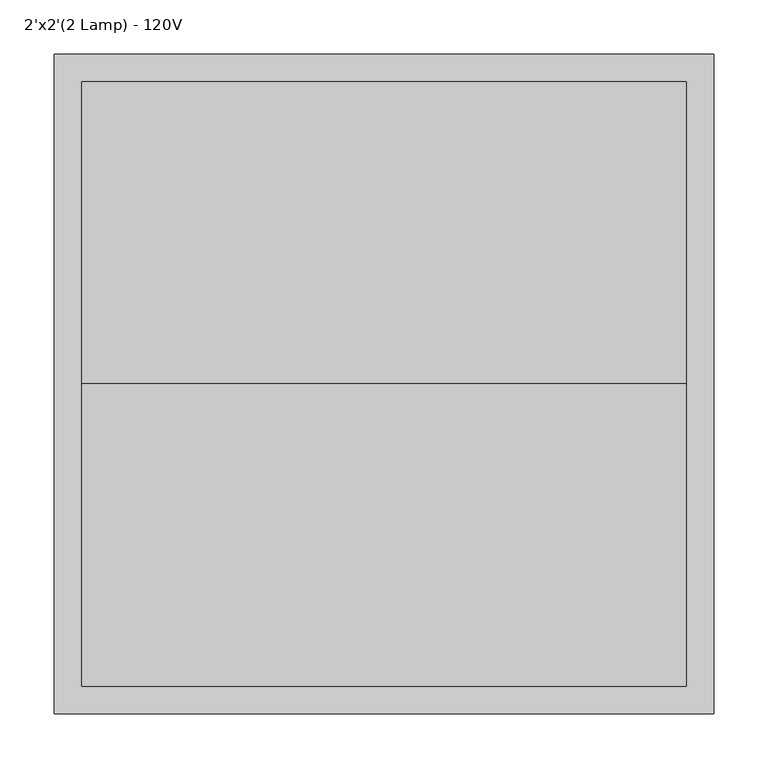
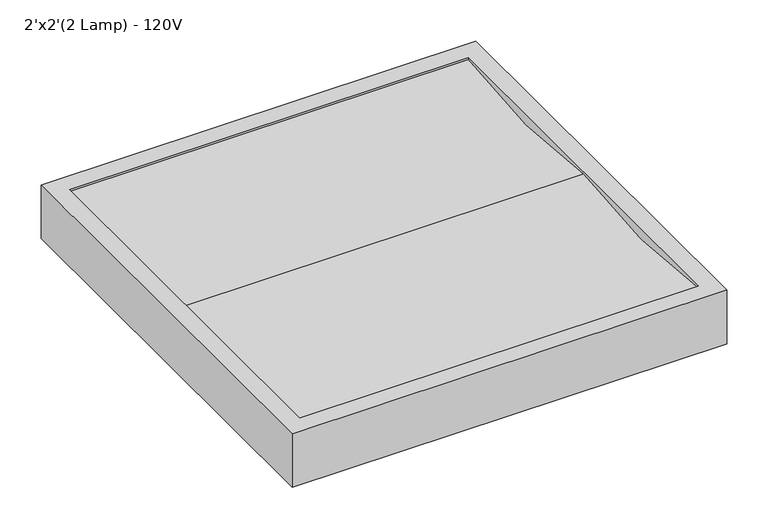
"""IFC4 building model written with IfcOpenShell, lengths in millimetres: light fixture geometry, Recessed Volumetric Light : 2'x2'(2 Lamp) - 120V."""

from ifc_helpers import new_model, si_unit, point, frame, frame_2d, origin, place, context, project, spatial, polyline, circle_curve, trimmed, segment, composite_curve, outline, extrude, faceted_brep, source, transform, mapped, element, save


def light_fixture_2_x2_2_lamp_120v_fb7acc95(model_context):
    return source(origin(), model_context, "Body", "SolidModel", [
        extrude(outline(composite_curve([segment(trimmed(circle_curve(frame_2d((-165.1, 792.2780702)), 807.784959), [point((-304.8, -3.3351839))], [point((-25.4, -3.3351839))], True, "CARTESIAN"), True, "CONTINUOUS"), segment(polyline([(-25.4, -3.3351839), (-25.4, -53.975), (-584.2, -53.975), (-584.2, -3.3351839)]), True, "CONTINUOUS"), segment(trimmed(circle_curve(frame_2d((-444.5, 792.2780702)), 807.784959), [point((-584.2, -3.3351839))], [point((-304.8, -3.3351839))], True, "CARTESIAN"), True, "CONTINUOUS")], self_intersect=False)), frame((-279.4, 0.0, 0.0), z_axis=(1.0, 0.0, 0.0), x_axis=(0.0, 1.0, 0.0)), (0.0, 0.0, 1.0), 558.8),
        faceted_brep([(304.8, -609.6, 0.0), (304.8, -609.6, -79.375), (304.8, 0.0, -79.375), (304.8, 0.0, 0.0), (-304.8, 0.0, 0.0), (-304.8, 0.0, -79.375), (-304.8, -609.6, -79.375), (-304.8, -609.6, 0.0), (279.4, -25.4, 0.0), (279.4, -584.2, 0.0), (-279.4, -584.2, 0.0), (-279.4, -25.4, 0.0), (-279.4, -25.4, -53.975), (279.4, -25.4, -53.975), (-279.4, -584.2, -53.975), (279.4, -584.2, -53.975)], [[[0, 1, 2, 3]], [[4, 5, 6, 7]], [[0, 3, 4, 7], [8, 9, 10, 11]], [[8, 11, 12, 13]], [[13, 12, 14, 15]], [[15, 14, 10, 9]], [[1, 0, 7, 6]], [[2, 1, 6, 5]], [[3, 2, 5, 4]], [[9, 8, 13, 15]], [[11, 10, 14, 12]]]),
    ])


if __name__ == "__main__":
    model = new_model("IFC4")
    model_context = context("Model", 3, world=origin())
    ifc_project = project(units=[si_unit("LENGTHUNIT", "METRE", prefix="MILLI")], contexts=[model_context])
    site = spatial("IfcSite", under=ifc_project)
    building = spatial("IfcBuilding", under=site)
    placement = place(None, origin())
    light_fixture_2_x2_2_lamp_120v_shape = light_fixture_2_x2_2_lamp_120v_fb7acc95(model_context)
    element("IfcLightFixture", 1, ObjectType="Recessed Volumetric Light : 2'x2'(2 Lamp) - 120V", at=placement, inside=building, context=model_context, shape_type="MappedRepresentation", body=[
        mapped(light_fixture_2_x2_2_lamp_120v_shape, transform((0.0, 0.0, 0.0), x_axis=(1.0, 0.0, 0.0), y_axis=(0.0, 1.0, 0.0), z_axis=(0.0, 0.0, 1.0))),
    ])
    save(model, "model.ifc")
